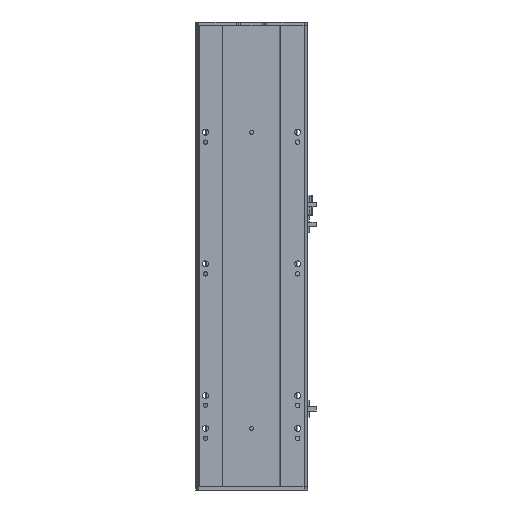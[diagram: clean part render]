
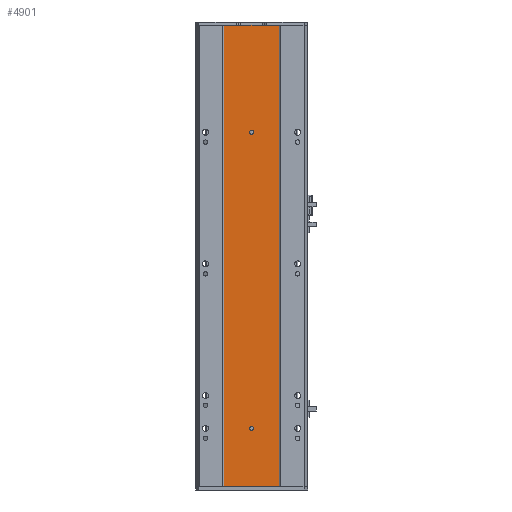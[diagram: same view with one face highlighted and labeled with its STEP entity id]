
A CAD part, front view. The second image highlights one B-rep face of the part: STEP entity #4901.
In plain terms, the highlighted planar face has unit normal (0, -1, 0).
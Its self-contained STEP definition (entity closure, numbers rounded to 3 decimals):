
#354 = CIRCLE ( 'NONE', #5799, 3. ) ;
#534 = DIRECTION ( 'NONE',  ( 0., 0., 1. ) ) ;
#1498 = AXIS2_PLACEMENT_3D ( 'NONE', #16592, #5318, #18488 ) ;
#2221 = CARTESIAN_POINT ( 'NONE',  ( 126.916, 2.57, 0. ) ) ;
#2262 = EDGE_CURVE ( 'NONE', #17881, #19111, #7088, .T. ) ;
#2550 = CARTESIAN_POINT ( 'NONE',  ( 42.916, 2.57, 701. ) ) ;
#2720 = ORIENTED_EDGE ( 'NONE', *, *, #16728, .T. ) ;
#2894 = VECTOR ( 'NONE', #11805, 1000. ) ;
#2913 = CARTESIAN_POINT ( 'NONE',  ( 85., 2.57, 88.5 ) ) ;
#2947 = VECTOR ( 'NONE', #20720, 1000. ) ;
#4004 = EDGE_CURVE ( 'NONE', #17369, #17881, #22906, .T. ) ;
#4083 = ORIENTED_EDGE ( 'NONE', *, *, #20179, .T. ) ;
#4084 = FACE_BOUND ( 'NONE', #15970, .T. ) ;
#4779 = EDGE_CURVE ( 'NONE', #5729, #21029, #11373, .T. ) ;
#4807 = DIRECTION ( 'NONE',  ( 0., 0., 1. ) ) ;
#4901 = ADVANCED_FACE ( 'NONE', ( #4084, #13486, #9034 ), #8480, .F. ) ;
#5318 = DIRECTION ( 'NONE',  ( 0., 1., 0. ) ) ;
#5393 = VECTOR ( 'NONE', #9988, 1000. ) ;
#5729 = VERTEX_POINT ( 'NONE', #19357 ) ;
#5785 = CARTESIAN_POINT ( 'NONE',  ( 42.916, 2.57, 701. ) ) ;
#5799 = AXIS2_PLACEMENT_3D ( 'NONE', #10979, #24158, #12915 ) ;
#6614 = CARTESIAN_POINT ( 'NONE',  ( 42.916, 2.57, 0. ) ) ;
#7088 = LINE ( 'NONE', #5785, #16527 ) ;
#7353 = CARTESIAN_POINT ( 'NONE',  ( 85., 2.57, 85.5 ) ) ;
#8124 = AXIS2_PLACEMENT_3D ( 'NONE', #2913, #16075, #4807 ) ;
#8480 = PLANE ( 'NONE',  #19394 ) ;
#8813 = CIRCLE ( 'NONE', #1498, 3. ) ;
#9034 = FACE_OUTER_BOUND ( 'NONE', #10934, .T. ) ;
#9546 = ORIENTED_EDGE ( 'NONE', *, *, #4004, .T. ) ;
#9988 = DIRECTION ( 'NONE',  ( -1., 0., 0. ) ) ;
#10050 = CARTESIAN_POINT ( 'NONE',  ( 85., 2.57, 91.5 ) ) ;
#10342 = LINE ( 'NONE', #21306, #5393 ) ;
#10362 = DIRECTION ( 'NONE',  ( 0., 0., 1. ) ) ;
#10934 = EDGE_LOOP ( 'NONE', ( #15879, #14495, #22868, #9546 ) ) ;
#10979 = CARTESIAN_POINT ( 'NONE',  ( 85., 2.57, 88.5 ) ) ;
#11373 = CIRCLE ( 'NONE', #17364, 3. ) ;
#11535 = EDGE_CURVE ( 'NONE', #16784, #22605, #354, .T. ) ;
#11763 = DIRECTION ( 'NONE',  ( 0., 1., 0. ) ) ;
#11805 = DIRECTION ( 'NONE',  ( 0., 0., 1. ) ) ;
#12422 = EDGE_CURVE ( 'NONE', #16335, #19111, #17305, .T. ) ;
#12915 = DIRECTION ( 'NONE',  ( 0., 0., 1. ) ) ;
#13486 = FACE_BOUND ( 'NONE', #20762, .T. ) ;
#14495 = ORIENTED_EDGE ( 'NONE', *, *, #12422, .F. ) ;
#14649 = CARTESIAN_POINT ( 'NONE',  ( 126.916, 2.57, 701. ) ) ;
#14889 = CARTESIAN_POINT ( 'NONE',  ( 42.916, 2.57, 0. ) ) ;
#15481 = EDGE_CURVE ( 'NONE', #17369, #16335, #10342, .T. ) ;
#15879 = ORIENTED_EDGE ( 'NONE', *, *, #2262, .T. ) ;
#15970 = EDGE_LOOP ( 'NONE', ( #24089, #4083 ) ) ;
#16075 = DIRECTION ( 'NONE',  ( 0., 1., 0. ) ) ;
#16335 = VERTEX_POINT ( 'NONE', #14889 ) ;
#16527 = VECTOR ( 'NONE', #17051, 1000. ) ;
#16592 = CARTESIAN_POINT ( 'NONE',  ( 85., 2.57, 538.5 ) ) ;
#16682 = CARTESIAN_POINT ( 'NONE',  ( 85., 2.57, 535.5 ) ) ;
#16728 = EDGE_CURVE ( 'NONE', #21029, #5729, #8813, .T. ) ;
#16784 = VERTEX_POINT ( 'NONE', #7353 ) ;
#17051 = DIRECTION ( 'NONE',  ( -1., 0., 0. ) ) ;
#17305 = LINE ( 'NONE', #23079, #2894 ) ;
#17364 = AXIS2_PLACEMENT_3D ( 'NONE', #23050, #11763, #534 ) ;
#17369 = VERTEX_POINT ( 'NONE', #22450 ) ;
#17881 = VERTEX_POINT ( 'NONE', #14649 ) ;
#18488 = DIRECTION ( 'NONE',  ( 0., 0., 1. ) ) ;
#19111 = VERTEX_POINT ( 'NONE', #2550 ) ;
#19130 = CIRCLE ( 'NONE', #8124, 3. ) ;
#19357 = CARTESIAN_POINT ( 'NONE',  ( 85., 2.57, 541.5 ) ) ;
#19394 = AXIS2_PLACEMENT_3D ( 'NONE', #6614, #23443, #10362 ) ;
#20179 = EDGE_CURVE ( 'NONE', #22605, #16784, #19130, .T. ) ;
#20720 = DIRECTION ( 'NONE',  ( 0., 0., 1. ) ) ;
#20762 = EDGE_LOOP ( 'NONE', ( #2720, #22454 ) ) ;
#21029 = VERTEX_POINT ( 'NONE', #16682 ) ;
#21306 = CARTESIAN_POINT ( 'NONE',  ( 42.916, 2.57, 0. ) ) ;
#22450 = CARTESIAN_POINT ( 'NONE',  ( 126.916, 2.57, 0. ) ) ;
#22454 = ORIENTED_EDGE ( 'NONE', *, *, #4779, .T. ) ;
#22605 = VERTEX_POINT ( 'NONE', #10050 ) ;
#22868 = ORIENTED_EDGE ( 'NONE', *, *, #15481, .F. ) ;
#22906 = LINE ( 'NONE', #2221, #2947 ) ;
#23050 = CARTESIAN_POINT ( 'NONE',  ( 85., 2.57, 538.5 ) ) ;
#23079 = CARTESIAN_POINT ( 'NONE',  ( 42.916, 2.57, 0. ) ) ;
#23443 = DIRECTION ( 'NONE',  ( 0., 1., 0. ) ) ;
#24089 = ORIENTED_EDGE ( 'NONE', *, *, #11535, .T. ) ;
#24158 = DIRECTION ( 'NONE',  ( 0., 1., 0. ) ) ;
